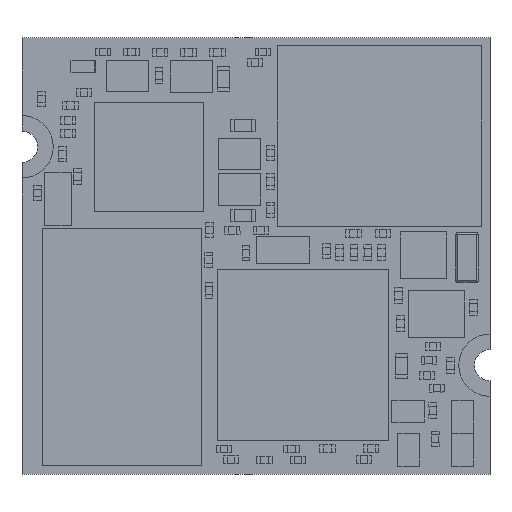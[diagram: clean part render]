
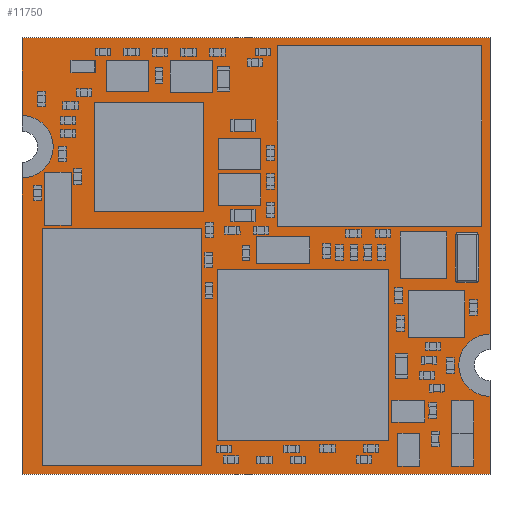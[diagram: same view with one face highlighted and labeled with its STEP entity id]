
A CAD part, top view. The second image highlights one B-rep face of the part: STEP entity #11750.
In plain terms, the highlighted planar face has unit normal (0, 0, 1).
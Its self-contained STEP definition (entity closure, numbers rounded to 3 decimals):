
#424 = LINE ( 'NONE', #46914, #69867 ) ;
#578 = CARTESIAN_POINT ( 'NONE',  ( 30., 0., 1.626 ) ) ;
#2158 = CARTESIAN_POINT ( 'NONE',  ( 30., 5., 1.626 ) ) ;
#2801 = EDGE_CURVE ( 'NONE', #22561, #51107, #54335, .T. ) ;
#3873 = DIRECTION ( 'NONE',  ( 1., 0., 0. ) ) ;
#4137 = CARTESIAN_POINT ( 'NONE',  ( 0., 0., 1.626 ) ) ;
#4428 = CARTESIAN_POINT ( 'NONE',  ( 0., 28., 1.626 ) ) ;
#4549 = LINE ( 'NONE', #60430, #36210 ) ;
#5327 = AXIS2_PLACEMENT_3D ( 'NONE', #4137, #27064, #69424 ) ;
#6466 = VERTEX_POINT ( 'NONE', #578 ) ;
#6942 = EDGE_CURVE ( 'NONE', #40976, #6466, #4549, .T. ) ;
#7253 = DIRECTION ( 'NONE',  ( 0., 1., 0. ) ) ;
#7741 = DIRECTION ( 'NONE',  ( 0., 0., 1. ) ) ;
#8790 = VECTOR ( 'NONE', #7253, 1000. ) ;
#9090 = ORIENTED_EDGE ( 'NONE', *, *, #24982, .T. ) ;
#9965 = VERTEX_POINT ( 'NONE', #71851 ) ;
#11750 = ADVANCED_FACE ( 'NONE', ( #14276 ), #15749, .T. ) ;
#14276 = FACE_OUTER_BOUND ( 'NONE', #26922, .T. ) ;
#15373 = LINE ( 'NONE', #65571, #27433 ) ;
#15749 = PLANE ( 'NONE',  #5327 ) ;
#16714 = CARTESIAN_POINT ( 'NONE',  ( 30., 28., 1.626 ) ) ;
#17306 = VERTEX_POINT ( 'NONE', #55864 ) ;
#19187 = CIRCLE ( 'NONE', #40485, 2. ) ;
#22561 = VERTEX_POINT ( 'NONE', #24521 ) ;
#24521 = CARTESIAN_POINT ( 'NONE',  ( 30., 9., 1.626 ) ) ;
#24737 = CARTESIAN_POINT ( 'NONE',  ( 30., 0., 1.626 ) ) ;
#24982 = EDGE_CURVE ( 'NONE', #22561, #37269, #67810, .T. ) ;
#25078 = ORIENTED_EDGE ( 'NONE', *, *, #2801, .F. ) ;
#25555 = CARTESIAN_POINT ( 'NONE',  ( 30., 0., 1.626 ) ) ;
#26922 = EDGE_LOOP ( 'NONE', ( #51195, #53339, #72470, #37840, #25078, #9090, #40171, #72387 ) ) ;
#27064 = DIRECTION ( 'NONE',  ( 0., 0., 1. ) ) ;
#27433 = VECTOR ( 'NONE', #31886, 1000. ) ;
#28084 = VERTEX_POINT ( 'NONE', #4428 ) ;
#28482 = DIRECTION ( 'NONE',  ( 0., 0., 1. ) ) ;
#30120 = CARTESIAN_POINT ( 'NONE',  ( 0., 21., 1.626 ) ) ;
#31886 = DIRECTION ( 'NONE',  ( 0., -1., 0. ) ) ;
#36210 = VECTOR ( 'NONE', #3873, 1000. ) ;
#37269 = VERTEX_POINT ( 'NONE', #16714 ) ;
#37840 = ORIENTED_EDGE ( 'NONE', *, *, #39571, .T. ) ;
#38170 = CARTESIAN_POINT ( 'NONE',  ( 0., 0., 1.626 ) ) ;
#39571 = EDGE_CURVE ( 'NONE', #6466, #51107, #70308, .T. ) ;
#40171 = ORIENTED_EDGE ( 'NONE', *, *, #61984, .T. ) ;
#40485 = AXIS2_PLACEMENT_3D ( 'NONE', #30120, #7741, #47040 ) ;
#40976 = VERTEX_POINT ( 'NONE', #38170 ) ;
#42083 = LINE ( 'NONE', #45666, #66704 ) ;
#44508 = EDGE_CURVE ( 'NONE', #28084, #17306, #42083, .T. ) ;
#45402 = CARTESIAN_POINT ( 'NONE',  ( 30., 7., 1.626 ) ) ;
#45666 = CARTESIAN_POINT ( 'NONE',  ( 0., 28., 1.626 ) ) ;
#46914 = CARTESIAN_POINT ( 'NONE',  ( 30., 28., 1.626 ) ) ;
#47040 = DIRECTION ( 'NONE',  ( 1., 0., 0. ) ) ;
#51107 = VERTEX_POINT ( 'NONE', #2158 ) ;
#51195 = ORIENTED_EDGE ( 'NONE', *, *, #62781, .F. ) ;
#53339 = ORIENTED_EDGE ( 'NONE', *, *, #62519, .T. ) ;
#53560 = DIRECTION ( 'NONE',  ( -1., 0., 0. ) ) ;
#54335 = CIRCLE ( 'NONE', #65491, 2. ) ;
#55864 = CARTESIAN_POINT ( 'NONE',  ( 0., 23., 1.626 ) ) ;
#57495 = DIRECTION ( 'NONE',  ( 0., -1., 0. ) ) ;
#60430 = CARTESIAN_POINT ( 'NONE',  ( 0., 0., 1.626 ) ) ;
#61984 = EDGE_CURVE ( 'NONE', #37269, #28084, #424, .T. ) ;
#62519 = EDGE_CURVE ( 'NONE', #9965, #40976, #15373, .T. ) ;
#62781 = EDGE_CURVE ( 'NONE', #9965, #17306, #19187, .T. ) ;
#65491 = AXIS2_PLACEMENT_3D ( 'NONE', #45402, #28482, #67734 ) ;
#65571 = CARTESIAN_POINT ( 'NONE',  ( 0., 28., 1.626 ) ) ;
#66704 = VECTOR ( 'NONE', #57495, 1000. ) ;
#67734 = DIRECTION ( 'NONE',  ( 1., 0., 0. ) ) ;
#67810 = LINE ( 'NONE', #25555, #71333 ) ;
#69424 = DIRECTION ( 'NONE',  ( 1., 0., 0. ) ) ;
#69867 = VECTOR ( 'NONE', #53560, 1000. ) ;
#70197 = DIRECTION ( 'NONE',  ( 0., 1., 0. ) ) ;
#70308 = LINE ( 'NONE', #24737, #8790 ) ;
#71333 = VECTOR ( 'NONE', #70197, 1000. ) ;
#71851 = CARTESIAN_POINT ( 'NONE',  ( 0., 19., 1.626 ) ) ;
#72387 = ORIENTED_EDGE ( 'NONE', *, *, #44508, .T. ) ;
#72470 = ORIENTED_EDGE ( 'NONE', *, *, #6942, .T. ) ;
